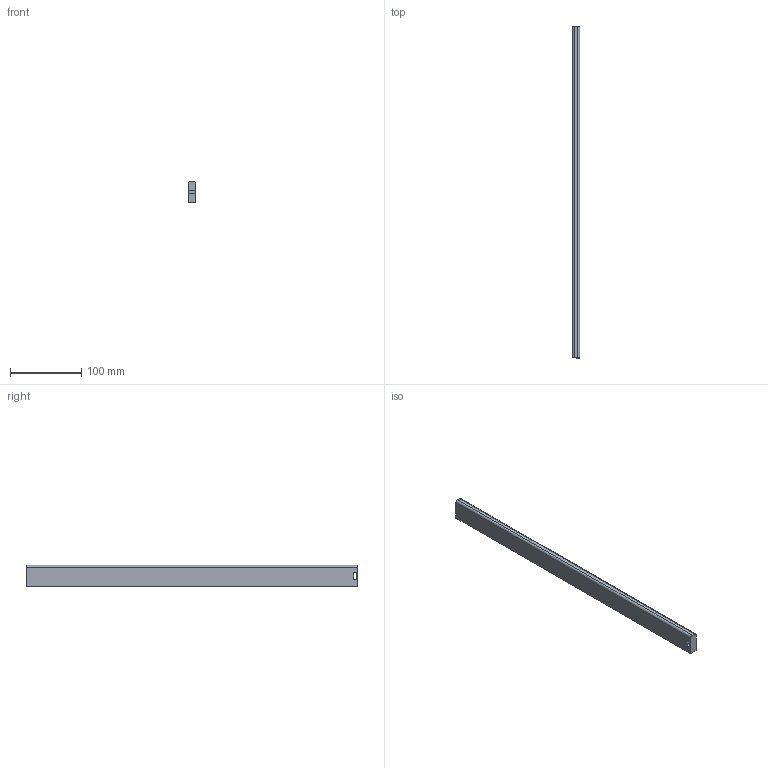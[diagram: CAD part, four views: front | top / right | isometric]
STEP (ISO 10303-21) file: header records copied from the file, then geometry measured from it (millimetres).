
FILE_DESCRIPTION (( 'STEP AP214' ), '1' );
FILE_NAME ('_Seitenreling_S610000200_RL465.step', '2010-09-06T14:51:20', ( 'grass' ), ( '' ), 'SwSTEP 2.0', 'SolidWorks 2010', '' );
FILE_SCHEMA (( 'AUTOMOTIVE_DESIGN' ));
Length unit declared in the file: millimetre
Products named in the file (1): _Seitenreling_S610000200_RL465
Bounding box: 10.5 x 465 x 30 mm (x, y, z)
Volume: 144210.1 mm3; surface area: 37270.5 mm2
Topology: 1 solids, 1 shells, 12 faces, 30 edges, 20 vertices
Faces by surface type: plane 8, cylinder 4
Entity records: 400 total; most frequent: DIRECTION 64, CARTESIAN_POINT 63, ORIENTED_EDGE 60, EDGE_CURVE 30, VECTOR 22, LINE 22, AXIS2_PLACEMENT_3D 21, VERTEX_POINT 20
